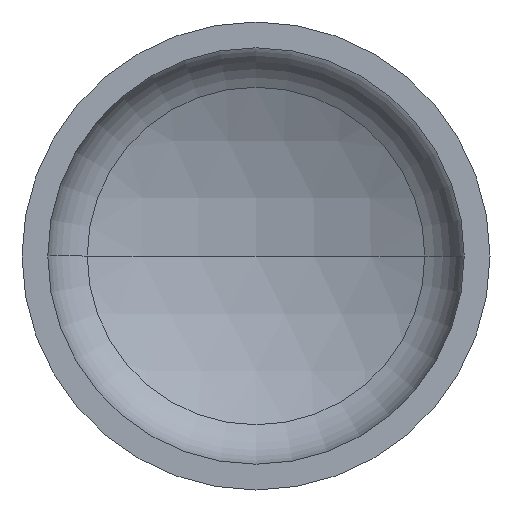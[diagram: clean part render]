
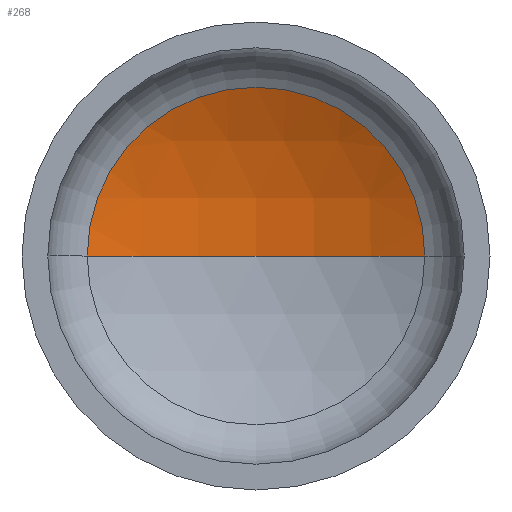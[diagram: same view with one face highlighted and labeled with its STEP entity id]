
A CAD part, front view. The second image highlights one B-rep face of the part: STEP entity #268.
In plain terms, the highlighted spherical face has radius 406 mm.
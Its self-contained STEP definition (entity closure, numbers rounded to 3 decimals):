
#10 = AXIS2_PLACEMENT_3D ( 'NONE', #125, #149, #150 ) ;
#14 = AXIS2_PLACEMENT_3D ( 'NONE', #327, #411, #119 ) ;
#15 = EDGE_LOOP ( 'NONE', ( #102, #74, #105 ) ) ;
#28 = VERTEX_POINT ( 'NONE', #262 ) ;
#35 = VERTEX_POINT ( 'NONE', #250 ) ;
#69 = AXIS2_PLACEMENT_3D ( 'NONE', #209, #200, #157 ) ;
#74 = ORIENTED_EDGE ( 'NONE', *, *, #355, .T. ) ;
#102 = ORIENTED_EDGE ( 'NONE', *, *, #385, .F. ) ;
#105 = ORIENTED_EDGE ( 'NONE', *, *, #351, .T. ) ;
#113 = VERTEX_POINT ( 'NONE', #239 ) ;
#119 = DIRECTION ( 'NONE',  ( 1., 0., 0. ) ) ;
#125 = CARTESIAN_POINT ( 'NONE',  ( 0., -207.711, 0. ) ) ;
#128 = DIRECTION ( 'NONE',  ( 1., 0., 0. ) ) ;
#149 = DIRECTION ( 'NONE',  ( 0., 0., -1. ) ) ;
#150 = DIRECTION ( 'NONE',  ( -1., 0., 0. ) ) ;
#157 = DIRECTION ( 'NONE',  ( -1., 0., 0. ) ) ;
#167 = SPHERICAL_SURFACE ( 'NONE', #69, 406. ) ;
#197 = CIRCLE ( 'NONE', #208, 406. ) ;
#200 = DIRECTION ( 'NONE',  ( 0., 0., -1. ) ) ;
#208 = AXIS2_PLACEMENT_3D ( 'NONE', #359, #213, #128 ) ;
#209 = CARTESIAN_POINT ( 'NONE',  ( 0., -207.711, 0. ) ) ;
#213 = DIRECTION ( 'NONE',  ( 0., 0., 1. ) ) ;
#239 = CARTESIAN_POINT ( 'NONE',  ( -183.195, 154.608, 0. ) ) ;
#245 = FACE_OUTER_BOUND ( 'NONE', #15, .T. ) ;
#250 = CARTESIAN_POINT ( 'NONE',  ( 0., 198.289, 0. ) ) ;
#262 = CARTESIAN_POINT ( 'NONE',  ( 183.195, 154.608, 0. ) ) ;
#268 = ADVANCED_FACE ( 'NONE', ( #245 ), #167, .F. ) ;
#274 = CIRCLE ( 'NONE', #10, 406. ) ;
#327 = CARTESIAN_POINT ( 'NONE',  ( 0., 154.608, 0. ) ) ;
#329 = CIRCLE ( 'NONE', #14, 183.195 ) ;
#351 = EDGE_CURVE ( 'NONE', #28, #113, #329, .T. ) ;
#355 = EDGE_CURVE ( 'NONE', #35, #28, #274, .T. ) ;
#359 = CARTESIAN_POINT ( 'NONE',  ( 0., -207.711, 0. ) ) ;
#385 = EDGE_CURVE ( 'NONE', #35, #113, #197, .T. ) ;
#411 = DIRECTION ( 'NONE',  ( 0., -1., 0. ) ) ;
